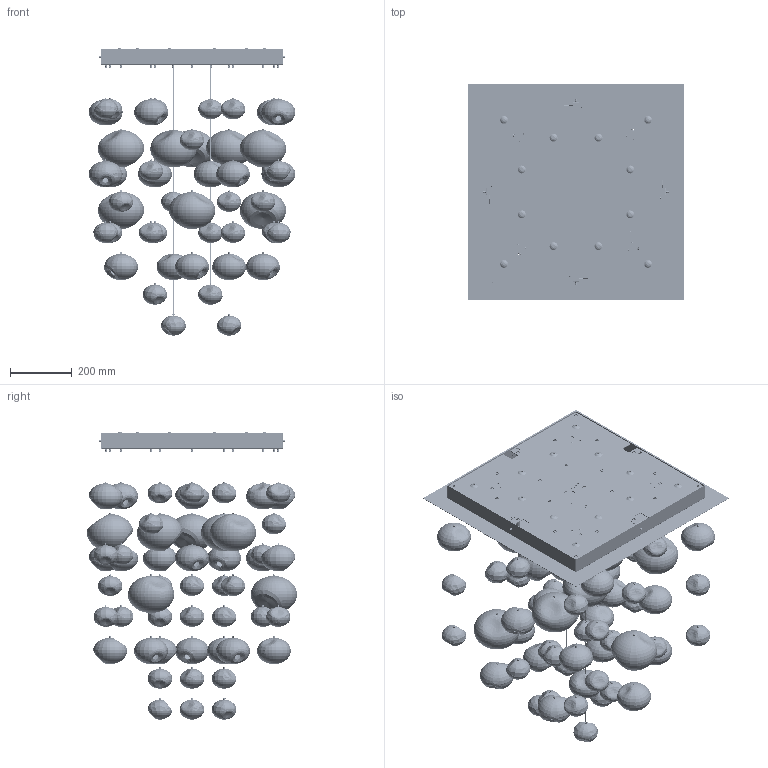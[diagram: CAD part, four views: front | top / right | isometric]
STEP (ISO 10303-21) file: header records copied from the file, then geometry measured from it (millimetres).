
FILE_DESCRIPTION(/* description */ (''),/* implementation_level */ '2;1');
FILE_NAME(/* name */ 'ETHER SQUARE A',/* time_stamp */ '2025-09-04T16:11:36+02:00',/* author */ (''),/* organization */ (''),/* preprocessor_version */ 'ST-DEVELOPER v16.5',/* originating_system */ 'Rhino 7.38',/* authorisation */ '');
FILE_SCHEMA (('CONFIG_CONTROL_DESIGN'));
Products named in the file (54): Document; VITE TCB M3X6 UNI7687 ZB; 146C009; 146C009-1; 146C009-2; X0057-008; DADO M4 DIN934 ZB; RONDELLA DENTELLATA ESTERNA M4; Z0033; Z0008; K011; RONDELLA M4 D.12 H1 ZINCATA DIN9021; VITE TCEI M4X6 UNI5931 ZB; X0072; Z0009; 146C006; VITE TCEI M4X12 UNI5931 ZB; W027; 146C010-G-927; Z0022; C026-927; C005; C008; B005; Vite TSP CR M3x8 zincata; VITE TC AUTOFIL M2,9X9,5 ZN UNI6954AB DIN7981C; K001; R001-36; 146C005; RONDELLA Ø7 H2 F.Ø3.2 STEAB 5021-2-118; VITE AUTOFIL. Ø2.9X6.5 TCC UNI 6954 AB; VITE TCEI M3X25 UNI5931 ZB; E007-0,5A; W037; Z017-P; W042; W044; 146C003; 146C020-D; 146C016-B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
Assembly tree (223 placements, depth 3):
  Document
    VITE TCB M3X6 UNI7687 ZB  x2
    146C009
      146C009-1
      146C009-2
      X0057-008  x5
    DADO M4 DIN934 ZB  x4
    RONDELLA DENTELLATA ESTERNA M4  x4
    Z0033  x4
      Z0008
      K011
    RONDELLA M4 D.12 H1 ZINCATA DIN9021  x4
    VITE TCEI M4X6 UNI5931 ZB  x4
    X0072  x22
    Z0009  x22
    146C006  x22
    VITE TCEI M4X12 UNI5931 ZB  x4
    W027
    146C010-G-927  x4
      Z0022
      C026-927
      C005
      C008
      B005
      Vite TSP CR M3x8 zincata
      VITE TC AUTOFIL M2,9X9,5 ZN UNI6954AB DIN7981C
      K001
      R001-36
      146C005
      RONDELLA Ø7 H2 F.Ø3.2 STEAB 5021-2-118
      VITE AUTOFIL. Ø2.9X6.5 TCC UNI 6954 AB
      VITE TCEI M3X25 UNI5931 ZB
      E007-0,5A
      W037
      Z017-P
      W042
      W044
    146C003
    146C020-D  x5
      146C016-B
      146C014
      146C013
      SEEGER N.4 ZINCATO minetti
      146C011
    146C020-F  x5
      146C016-B
      146C014
      146C013
      SEEGER N.4 ZINCATO minetti
      00146C012
    146C020-E  x3
      146C016-A
      146C013
      146C015
      146C014
      146C011
      SEEGER N.4 ZINCATO minetti
    146C020-C  x3
      146C016-A
      146C015
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Bounding box: 700 x 700 x 928.81 mm (x, y, z)
Volume: 4395773.2 mm3; surface area: 6064718.8 mm2
Topology: 471 solids, 493 shells, 17591 faces, 45584 edges, 29960 vertices
Faces by surface type: plane 9002, cylinder 5039, bspline 3550
Full cylindrical faces by diameter (mm): 0.65 x5, 0.88 x8, 1 x77, 1.02 x1, 1.15 x16, 1.25 x4, 1.5 x16, 2 x44, 2.25 x8, 2.3 x16, 2.459 x19, 2.75 x2, 2.8 x8, 2.9 x29, 3 x102, 3.1 x8, 3.2 x12, 3.242 x12, 3.3 x30, 3.5 x22, 4 x43, 4.3 x12, 4.9 x4, 5 x8, 5.5 x21, 5.6 x8, 5.8 x4, 6 x22, 6.5 x56, 6.6 x8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
Entity records: 367917 total; most frequent: CARTESIAN_POINT 297201, ORIENTED_EDGE 16333, EDGE_CURVE 8168, VERTEX_POINT 5389, B_SPLINE_CURVE_WITH_KNOTS 5113, EDGE_LOOP 3517, ADVANCED_FACE 3033, FACE_OUTER_BOUND 3033
